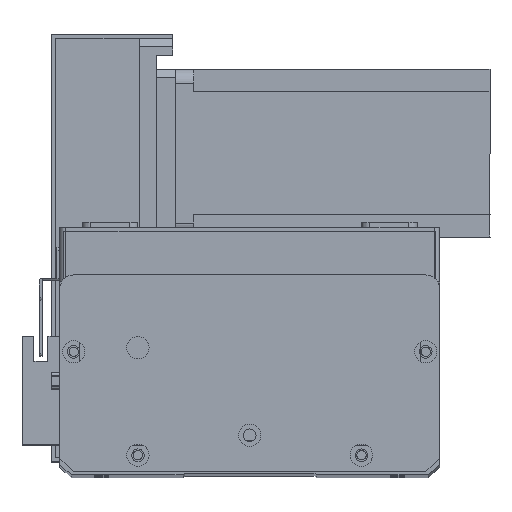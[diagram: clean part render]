
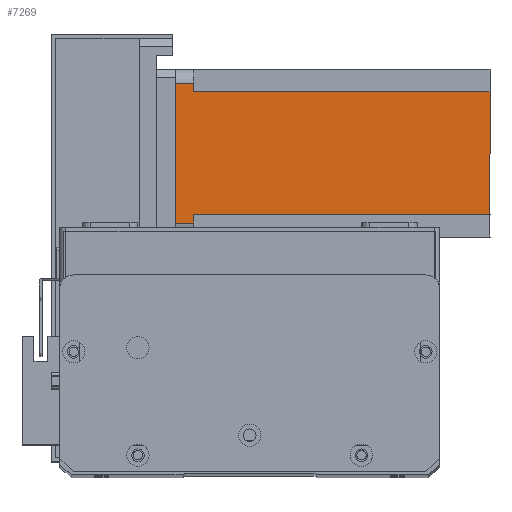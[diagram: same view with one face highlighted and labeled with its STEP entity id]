
A CAD part, top view. The second image highlights one B-rep face of the part: STEP entity #7269.
In plain terms, the highlighted planar face has unit normal (0, 0, 1) as drawn and (0, -1, 0) by its records, which use the part's own axes.
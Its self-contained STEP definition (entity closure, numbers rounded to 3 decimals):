
#818 = LINE ( 'NONE', #10694, #11972 ) ;
#1311 = DIRECTION ( 'NONE',  ( 1., 0., 0. ) ) ;
#2216 = CARTESIAN_POINT ( 'NONE',  ( 52., 0., -6.5 ) ) ;
#2785 = VERTEX_POINT ( 'NONE', #14182 ) ;
#5106 = VECTOR ( 'NONE', #1311, 1000. ) ;
#5281 = VECTOR ( 'NONE', #8274, 1000. ) ;
#5335 = LINE ( 'NONE', #14198, #28262 ) ;
#6051 = VERTEX_POINT ( 'NONE', #2216 ) ;
#6078 = CARTESIAN_POINT ( 'NONE',  ( 52., 0., -6.5 ) ) ;
#6132 = VERTEX_POINT ( 'NONE', #26885 ) ;
#6301 = ORIENTED_EDGE ( 'NONE', *, *, #28765, .F. ) ;
#6431 = EDGE_CURVE ( 'NONE', #2785, #12092, #24231, .T. ) ;
#6772 = DIRECTION ( 'NONE',  ( 0., 0., -1. ) ) ;
#7269 = ADVANCED_FACE ( 'NONE', ( #19670 ), #15776, .T. ) ;
#7536 = LINE ( 'NONE', #7947, #12775 ) ;
#7683 = DIRECTION ( 'NONE',  ( 0., 0., -1. ) ) ;
#7713 = VECTOR ( 'NONE', #12193, 1000. ) ;
#7947 = CARTESIAN_POINT ( 'NONE',  ( 0., 0., -112.5 ) ) ;
#8274 = DIRECTION ( 'NONE',  ( 0., 0., 1. ) ) ;
#8459 = EDGE_LOOP ( 'NONE', ( #11266, #27836, #17583, #14272, #6301, #16805, #25559, #24459 ) ) ;
#9297 = VERTEX_POINT ( 'NONE', #25500 ) ;
#10176 = DIRECTION ( 'NONE',  ( 1., 0., 0. ) ) ;
#10548 = VECTOR ( 'NONE', #6772, 1000. ) ;
#10694 = CARTESIAN_POINT ( 'NONE',  ( 55., 0., -112.5 ) ) ;
#11266 = ORIENTED_EDGE ( 'NONE', *, *, #15528, .T. ) ;
#11313 = DIRECTION ( 'NONE',  ( 0., -1., 0. ) ) ;
#11972 = VECTOR ( 'NONE', #12929, 1000. ) ;
#12092 = VERTEX_POINT ( 'NONE', #27955 ) ;
#12193 = DIRECTION ( 'NONE',  ( -1., 0., 0. ) ) ;
#12775 = VECTOR ( 'NONE', #10176, 1000. ) ;
#12929 = DIRECTION ( 'NONE',  ( 0., 0., 1. ) ) ;
#13098 = CARTESIAN_POINT ( 'NONE',  ( 8., 0., -6.5 ) ) ;
#13822 = AXIS2_PLACEMENT_3D ( 'NONE', #26829, #11313, #18013 ) ;
#14182 = CARTESIAN_POINT ( 'NONE',  ( 5., 0., 0. ) ) ;
#14198 = CARTESIAN_POINT ( 'NONE',  ( 5., 0., -112.5 ) ) ;
#14272 = ORIENTED_EDGE ( 'NONE', *, *, #27614, .T. ) ;
#14326 = LINE ( 'NONE', #23244, #7713 ) ;
#15528 = EDGE_CURVE ( 'NONE', #6051, #27858, #18394, .T. ) ;
#15707 = CARTESIAN_POINT ( 'NONE',  ( 52., 0., -112.5 ) ) ;
#15776 = PLANE ( 'NONE',  #13822 ) ;
#16805 = ORIENTED_EDGE ( 'NONE', *, *, #22102, .F. ) ;
#17583 = ORIENTED_EDGE ( 'NONE', *, *, #6431, .F. ) ;
#18013 = DIRECTION ( 'NONE',  ( 0., 0., -1. ) ) ;
#18394 = LINE ( 'NONE', #6078, #22902 ) ;
#19670 = FACE_OUTER_BOUND ( 'NONE', #8459, .T. ) ;
#19996 = CARTESIAN_POINT ( 'NONE',  ( 55., 0., -6.5 ) ) ;
#20296 = EDGE_CURVE ( 'NONE', #6051, #24998, #28242, .T. ) ;
#21368 = CARTESIAN_POINT ( 'NONE',  ( 0., 0., 0. ) ) ;
#21557 = CARTESIAN_POINT ( 'NONE',  ( 8., 0., -112.5 ) ) ;
#21617 = DIRECTION ( 'NONE',  ( 1., 0., 0. ) ) ;
#22102 = EDGE_CURVE ( 'NONE', #9297, #24627, #27502, .T. ) ;
#22902 = VECTOR ( 'NONE', #21617, 1000. ) ;
#23081 = CARTESIAN_POINT ( 'NONE',  ( 52., 0., -112.5 ) ) ;
#23244 = CARTESIAN_POINT ( 'NONE',  ( 8., 0., -6.5 ) ) ;
#24231 = LINE ( 'NONE', #21368, #5106 ) ;
#24459 = ORIENTED_EDGE ( 'NONE', *, *, #20296, .F. ) ;
#24627 = VERTEX_POINT ( 'NONE', #13098 ) ;
#24998 = VERTEX_POINT ( 'NONE', #23081 ) ;
#25099 = EDGE_CURVE ( 'NONE', #9297, #24998, #7536, .T. ) ;
#25500 = CARTESIAN_POINT ( 'NONE',  ( 8., 0., -112.5 ) ) ;
#25559 = ORIENTED_EDGE ( 'NONE', *, *, #25099, .T. ) ;
#26485 = EDGE_CURVE ( 'NONE', #27858, #12092, #818, .T. ) ;
#26829 = CARTESIAN_POINT ( 'NONE',  ( 0., 0., -112.5 ) ) ;
#26885 = CARTESIAN_POINT ( 'NONE',  ( 5., 0., -6.5 ) ) ;
#27502 = LINE ( 'NONE', #21557, #5281 ) ;
#27614 = EDGE_CURVE ( 'NONE', #2785, #6132, #5335, .T. ) ;
#27836 = ORIENTED_EDGE ( 'NONE', *, *, #26485, .T. ) ;
#27858 = VERTEX_POINT ( 'NONE', #19996 ) ;
#27955 = CARTESIAN_POINT ( 'NONE',  ( 55., 0., 0. ) ) ;
#28242 = LINE ( 'NONE', #15707, #10548 ) ;
#28262 = VECTOR ( 'NONE', #7683, 1000. ) ;
#28765 = EDGE_CURVE ( 'NONE', #24627, #6132, #14326, .T. ) ;
